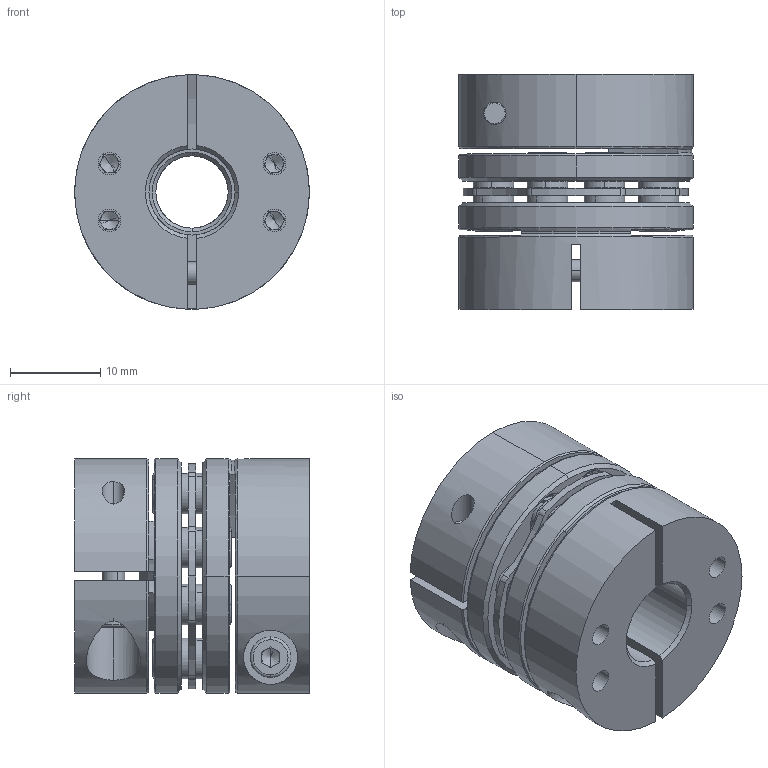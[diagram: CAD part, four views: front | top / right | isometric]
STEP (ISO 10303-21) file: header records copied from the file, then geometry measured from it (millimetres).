
FILE_DESCRIPTION (( 'STEP AP203' ), '1' );
FILE_NAME ('LDG-D26-8-9.525.STEP', '2021-10-28T03:30:03', ( '' ), ( '' ), 'SwSTEP 2.0', 'SolidWorks 2018', '' );
FILE_SCHEMA (( 'CONFIG_CONTROL_DESIGN' ));
Length unit declared in the file: millimetre
Products named in the file (2): LDG-D26-8-9.525; 錨璃2^LDG-D26蚾饜芞1
Assembly tree (1 placements, depth 2):
  LDG-D26-8-9.525
    錨璃2^LDG-D26蚾饜芞1
Bounding box: 26 x 26 x 26 mm (x, y, z)
Volume: 9906.9 mm3; surface area: 8995.7 mm2
Topology: 1 solids, 21 shells, 765 faces, 1872 edges, 1159 vertices
Faces by surface type: cylinder 301, plane 244, cone 200, torus 20
Entity records: 23057 total; most frequent: DIRECTION 4281, CARTESIAN_POINT 4164, ORIENTED_EDGE 3688, EDGE_CURVE 1844, AXIS2_PLACEMENT_3D 1740, VERTEX_POINT 1159, CIRCLE 971, EDGE_LOOP 909
